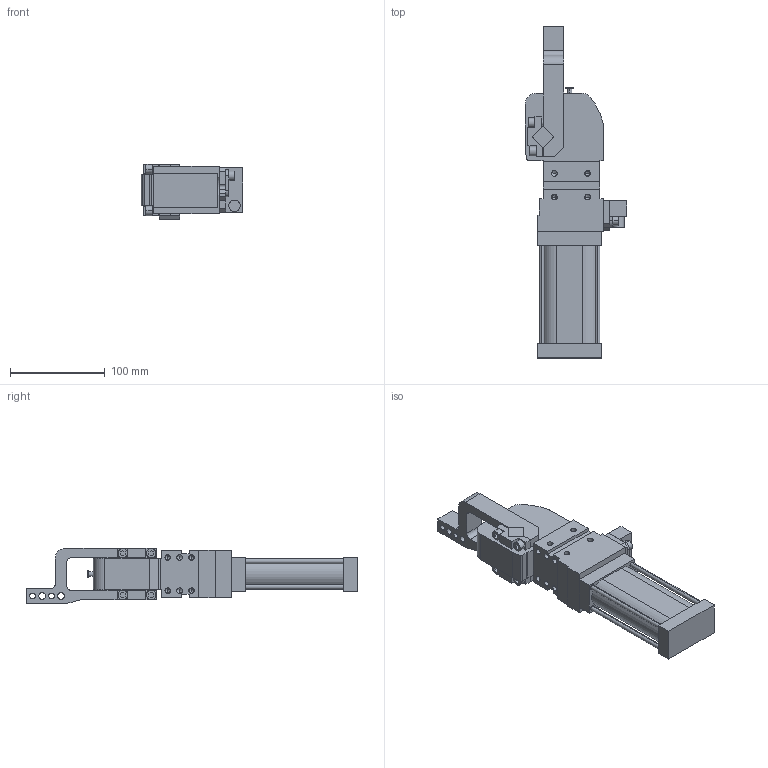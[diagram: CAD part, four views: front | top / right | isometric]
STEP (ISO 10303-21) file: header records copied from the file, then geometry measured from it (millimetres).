
FILE_DESCRIPTION (( 'STEP AP214' ), '1' );
FILE_NAME ('cpl40h2dsi1g_91.STEP', '2021-05-25T10:42:33', ( '' ), ( '' ), 'SwSTEP 2.0', 'SolidWorks 2021', '' );
FILE_SCHEMA (( 'AUTOMOTIVE_DESIGN' ));
Length unit declared in the file: millimetre
Products named in the file (5): cpl40h2dsi1g_91; blocchetto_VEP_0_cpl40; piastra_blocchetto_cpl40; meccanica_cpl40; leva_v2d_cpl40
Assembly tree (4 placements, depth 2):
  cpl40h2dsi1g_91
    meccanica_cpl40
    blocchetto_VEP_0_cpl40
    piastra_blocchetto_cpl40
    leva_v2d_cpl40
Bounding box: 107.5 x 350 x 58 mm (x, y, z)
Volume: 766650.2 mm3; surface area: 116512.3 mm2
Topology: 5 solids, 5 shells, 431 faces, 1097 edges, 687 vertices
Faces by surface type: plane 242, cylinder 141, cone 48
Entity records: 14240 total; most frequent: DIRECTION 2239, CARTESIAN_POINT 2176, ORIENTED_EDGE 2102, EDGE_CURVE 1051, AXIS2_PLACEMENT_3D 750, VECTOR 739, LINE 739, VERTEX_POINT 687
